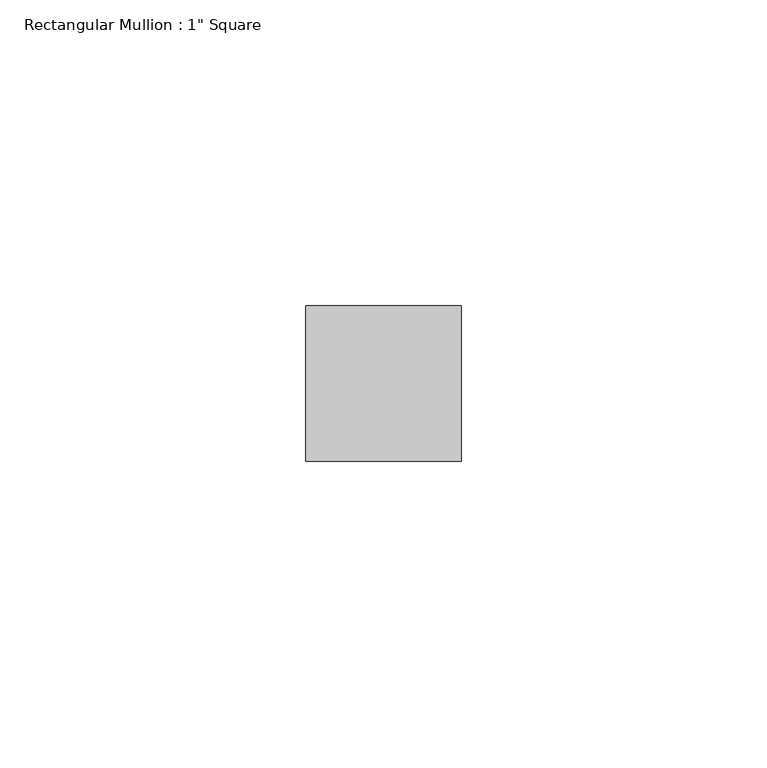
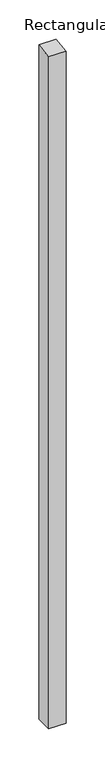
"""IFC4 building model written with IfcOpenShell, lengths in millimetres: member geometry."""

from ifc_helpers import new_model, si_unit, frame, origin, place, context, project, spatial, polyline, outline, extrude, source, transform, mapped, element, save


def member_adcb54fa(model_context):
    return source(origin(), model_context, "Body", "SweptSolid", [
        extrude(outline(polyline([(-12.7, -1.8076902), (12.7, 1.8076902), (12.7, -1052.2237079), (-12.7, -1052.2237079), (-12.7, -1.8076902)])), frame((-12.7, 0.0, 0.0), z_axis=(1.0, 0.0, 0.0), x_axis=(0.0, 1.0, 0.0)), (0.0, 0.0, 1.0), 25.4),
    ])


if __name__ == "__main__":
    model = new_model("IFC4")
    model_context = context("Model", 3, world=origin())
    ifc_project = project(units=[si_unit("LENGTHUNIT", "METRE", prefix="MILLI")], contexts=[model_context])
    site = spatial("IfcSite", under=ifc_project)
    building = spatial("IfcBuilding", under=site)
    placement = place(None, origin())
    member_shape = member_adcb54fa(model_context)
    element("IfcMember", 1, ObjectType="Rectangular Mullion : 1\" Square", at=placement, inside=building, context=model_context, shape_type="MappedRepresentation", body=[
        mapped(member_shape, transform((0.0, 0.0, 0.0), x_axis=(1.0, 0.0, 0.0), y_axis=(0.0, 1.0, 0.0), z_axis=(0.0, 0.0, 1.0))),
    ])
    save(model, "model.ifc")
